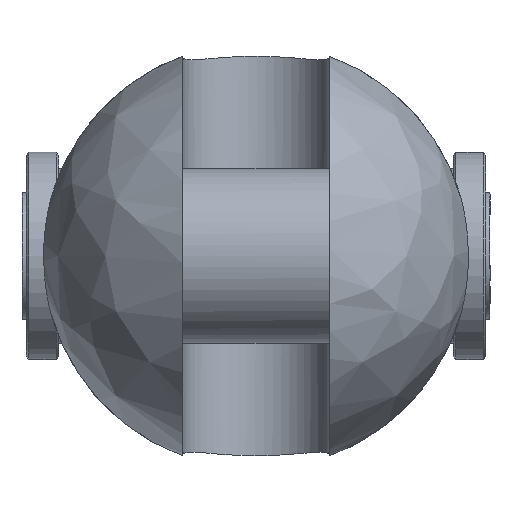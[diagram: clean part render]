
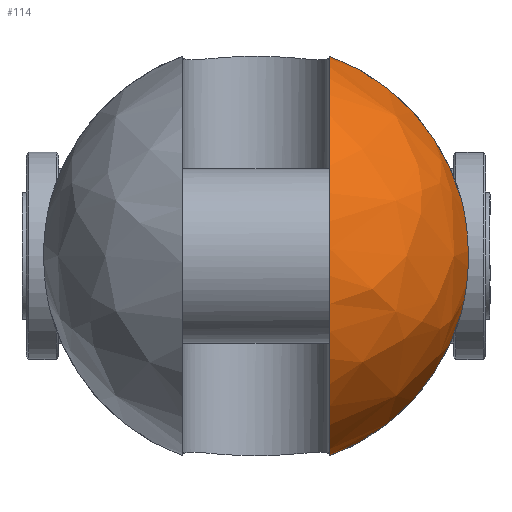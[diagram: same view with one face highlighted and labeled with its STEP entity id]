
A CAD part, left-side view. The second image highlights one B-rep face of the part: STEP entity #114.
In plain terms, the highlighted free-form (B-spline) face has degree [2, 2] with [9, 5] control points.
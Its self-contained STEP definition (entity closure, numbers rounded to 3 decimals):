
#114=ADVANCED_FACE('',(#202),#1535,.T.);
#202=FACE_OUTER_BOUND('',#302,.T.);
#302=EDGE_LOOP('',(#746,#747,#748,#749));
#746=ORIENTED_EDGE('',*,*,#1005,.T.);
#747=ORIENTED_EDGE('',*,*,#1002,.F.);
#748=ORIENTED_EDGE('',*,*,#1021,.T.);
#749=ORIENTED_EDGE('',*,*,#994,.F.);
#994=EDGE_CURVE('',#1425,#1426,#1256,.T.);
#1002=EDGE_CURVE('',#1433,#1434,#1257,.T.);
#1005=EDGE_CURVE('',#1425,#1434,#1259,.T.);
#1021=EDGE_CURVE('',#1433,#1426,#1130,.T.);
#1130=B_SPLINE_CURVE_WITH_KNOTS('',3,(#3620,#3621,#3622,#3623,#3624,#3625,
#3626,#3627,#3628,#3629,#3630,#3631,#3632,#3633),.UNSPECIFIED.,.F.,.F.,
(4,2,2,2,2,2,4),(0.,1.605,6.417,11.229,
16.04,20.852,22.457),.UNSPECIFIED.);
#1256=(
BOUNDED_CURVE()
B_SPLINE_CURVE(2,(#3472,#3473,#3474),.UNSPECIFIED.,.F.,.F.)
B_SPLINE_CURVE_WITH_KNOTS((3,3),(0.,36.808),.UNSPECIFIED.)
CURVE()
GEOMETRIC_REPRESENTATION_ITEM()
RATIONAL_B_SPLINE_CURVE((1.,0.891,1.))
REPRESENTATION_ITEM('')
);
#1257=(
BOUNDED_CURVE()
B_SPLINE_CURVE(2,(#3529,#3530,#3531),.UNSPECIFIED.,.F.,.F.)
B_SPLINE_CURVE_WITH_KNOTS((3,3),(0.,36.808),.UNSPECIFIED.)
CURVE()
GEOMETRIC_REPRESENTATION_ITEM()
RATIONAL_B_SPLINE_CURVE((1.,0.891,1.))
REPRESENTATION_ITEM('')
);
#1259=(
BOUNDED_CURVE()
B_SPLINE_CURVE(2,(#3537,#3538,#3539,#3540,#3541),.UNSPECIFIED.,.F.,.F.)
B_SPLINE_CURVE_WITH_KNOTS((3,2,3),(-114.948,-57.474,
0.),.UNSPECIFIED.)
CURVE()
GEOMETRIC_REPRESENTATION_ITEM()
RATIONAL_B_SPLINE_CURVE((1.,0.707,1.,0.707,1.))
REPRESENTATION_ITEM('')
);
#1425=VERTEX_POINT('',#3302);
#1426=VERTEX_POINT('',#3303);
#1433=VERTEX_POINT('',#3310);
#1434=VERTEX_POINT('',#3311);
#1535=(
BOUNDED_SURFACE()
B_SPLINE_SURFACE(2,2,((#3174,#3175,#3176,#3177,#3178),(#3179,#3180,#3181,
#3182,#3183),(#3184,#3185,#3186,#3187,#3188),(#3189,#3190,#3191,#3192,#3193),
(#3194,#3195,#3196,#3197,#3198),(#3199,#3200,#3201,#3202,#3203),(#3204,
#3205,#3206,#3207,#3208),(#3209,#3210,#3211,#3212,#3213),(#3214,#3215,#3216,
#3217,#3218)),.UNSPECIFIED.,.T.,.F.,.F.)
B_SPLINE_SURFACE_WITH_KNOTS((3,2,2,2,3),(3,2,3),(0.,61.261,122.522,
183.783,245.044),(0.,61.261,122.522),
 .UNSPECIFIED.)
GEOMETRIC_REPRESENTATION_ITEM()
RATIONAL_B_SPLINE_SURFACE(((1.,0.707,1.,0.707,1.),
(0.707,0.5,0.707,0.5,0.707),(1.,0.707,
1.,0.707,1.),(0.707,0.5,0.707,0.5,0.707),
(1.,0.707,1.,0.707,1.),(0.707,0.5,0.707,
0.5,0.707),(1.,0.707,1.,0.707,1.),(0.707,
0.5,0.707,0.5,0.707),(1.,0.707,1.,0.707,
1.)))
REPRESENTATION_ITEM('')
SURFACE()
);
#3174=CARTESIAN_POINT('',(-56.,0.,0.));
#3175=CARTESIAN_POINT('',(-56.,39.,0.));
#3176=CARTESIAN_POINT('',(-17.,39.,0.));
#3177=CARTESIAN_POINT('',(22.,39.,0.));
#3178=CARTESIAN_POINT('',(22.,0.,0.));
#3179=CARTESIAN_POINT('',(-56.,0.,0.));
#3180=CARTESIAN_POINT('',(-56.,39.,39.));
#3181=CARTESIAN_POINT('',(-17.,39.,39.));
#3182=CARTESIAN_POINT('',(22.,39.,39.));
#3183=CARTESIAN_POINT('',(22.,0.,0.));
#3184=CARTESIAN_POINT('',(-56.,0.,0.));
#3185=CARTESIAN_POINT('',(-56.,0.,39.));
#3186=CARTESIAN_POINT('',(-17.,0.,39.));
#3187=CARTESIAN_POINT('',(22.,0.,39.));
#3188=CARTESIAN_POINT('',(22.,0.,0.));
#3189=CARTESIAN_POINT('',(-56.,0.,0.));
#3190=CARTESIAN_POINT('',(-56.,-39.,39.));
#3191=CARTESIAN_POINT('',(-17.,-39.,39.));
#3192=CARTESIAN_POINT('',(22.,-39.,39.));
#3193=CARTESIAN_POINT('',(22.,0.,0.));
#3194=CARTESIAN_POINT('',(-56.,0.,0.));
#3195=CARTESIAN_POINT('',(-56.,-39.,0.));
#3196=CARTESIAN_POINT('',(-17.,-39.,0.));
#3197=CARTESIAN_POINT('',(22.,-39.,0.));
#3198=CARTESIAN_POINT('',(22.,0.,0.));
#3199=CARTESIAN_POINT('',(-56.,0.,0.));
#3200=CARTESIAN_POINT('',(-56.,-39.,-39.));
#3201=CARTESIAN_POINT('',(-17.,-39.,-39.));
#3202=CARTESIAN_POINT('',(22.,-39.,-39.));
#3203=CARTESIAN_POINT('',(22.,0.,0.));
#3204=CARTESIAN_POINT('',(-56.,0.,0.));
#3205=CARTESIAN_POINT('',(-56.,0.,-39.));
#3206=CARTESIAN_POINT('',(-17.,0.,-39.));
#3207=CARTESIAN_POINT('',(22.,0.,-39.));
#3208=CARTESIAN_POINT('',(22.,0.,0.));
#3209=CARTESIAN_POINT('',(-56.,0.,0.));
#3210=CARTESIAN_POINT('',(-56.,39.,-39.));
#3211=CARTESIAN_POINT('',(-17.,39.,-39.));
#3212=CARTESIAN_POINT('',(22.,39.,-39.));
#3213=CARTESIAN_POINT('',(22.,0.,0.));
#3214=CARTESIAN_POINT('',(-56.,0.,0.));
#3215=CARTESIAN_POINT('',(-56.,39.,0.));
#3216=CARTESIAN_POINT('',(-17.,39.,0.));
#3217=CARTESIAN_POINT('',(22.,39.,0.));
#3218=CARTESIAN_POINT('',(22.,0.,0.));
#3302=CARTESIAN_POINT('',(-17.,-13.5,36.589));
#3303=CARTESIAN_POINT('',(-17.,-37.55,10.536));
#3310=CARTESIAN_POINT('',(-17.,-37.55,-10.536));
#3311=CARTESIAN_POINT('',(-17.,-13.5,-36.589));
#3472=CARTESIAN_POINT('',(-17.,-13.5,36.589));
#3473=CARTESIAN_POINT('',(-17.,-32.173,29.699));
#3474=CARTESIAN_POINT('',(-17.,-37.55,10.536));
#3529=CARTESIAN_POINT('',(-17.,-37.55,-10.536));
#3530=CARTESIAN_POINT('',(-17.,-32.173,-29.699));
#3531=CARTESIAN_POINT('',(-17.,-13.5,-36.589));
#3537=CARTESIAN_POINT('',(-17.,-13.5,36.589));
#3538=CARTESIAN_POINT('',(-53.589,-13.5,36.589));
#3539=CARTESIAN_POINT('',(-53.589,-13.5,0.));
#3540=CARTESIAN_POINT('',(-53.589,-13.5,-36.589));
#3541=CARTESIAN_POINT('',(-17.,-13.5,-36.589));
#3620=CARTESIAN_POINT('',(-17.,-37.55,-10.536));
#3621=CARTESIAN_POINT('',(-17.277,-37.675,-10.089));
#3622=CARTESIAN_POINT('',(-17.537,-37.793,-9.629));
#3623=CARTESIAN_POINT('',(-18.506,-38.227,-7.749));
#3624=CARTESIAN_POINT('',(-19.068,-38.475,-6.24));
#3625=CARTESIAN_POINT('',(-19.816,-38.804,-3.143));
#3626=CARTESIAN_POINT('',(-20.,-38.884,-1.556));
#3627=CARTESIAN_POINT('',(-20.,-38.884,1.556));
#3628=CARTESIAN_POINT('',(-19.816,-38.804,3.143));
#3629=CARTESIAN_POINT('',(-19.068,-38.475,6.24));
#3630=CARTESIAN_POINT('',(-18.506,-38.227,7.749));
#3631=CARTESIAN_POINT('',(-17.537,-37.793,9.629));
#3632=CARTESIAN_POINT('',(-17.277,-37.675,10.089));
#3633=CARTESIAN_POINT('',(-17.,-37.55,10.536));
